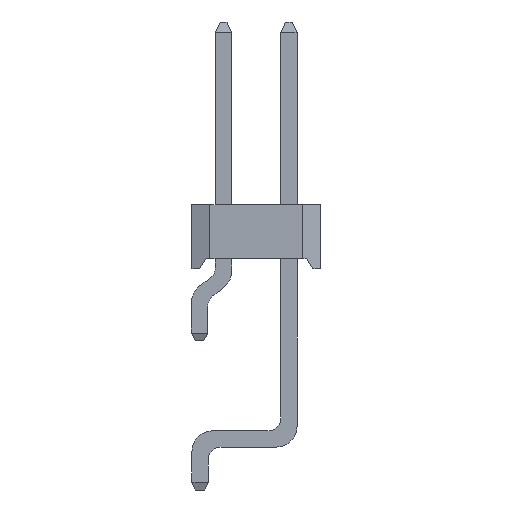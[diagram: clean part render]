
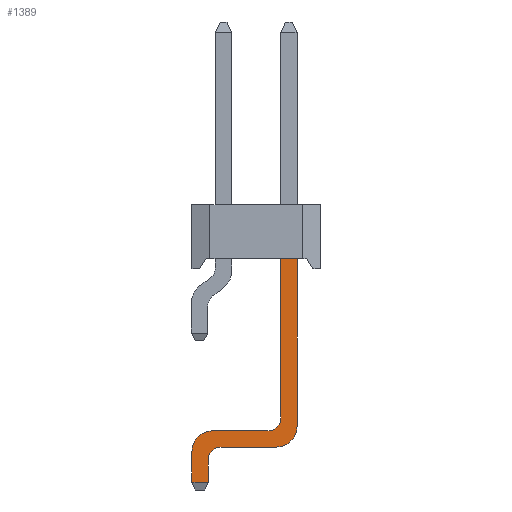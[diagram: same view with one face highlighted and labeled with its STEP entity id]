
A CAD part, left-side view. The second image highlights one B-rep face of the part: STEP entity #1389.
In plain terms, the highlighted planar face has unit normal (-1, 0, 0).
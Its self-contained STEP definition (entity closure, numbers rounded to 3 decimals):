
#370=CIRCLE('',#24748,0.8);
#371=CIRCLE('',#24749,0.5);
#372=CIRCLE('',#24750,0.8);
#373=CIRCLE('',#24751,0.5);
#1389=ADVANCED_FACE('',(#3831),#2611,.T.);
#2611=PLANE('',#24752);
#3831=FACE_OUTER_BOUND('',#5221,.T.);
#5221=EDGE_LOOP('',(#9910,#9911,#9912,#9913,#9914,#9915,#9916,#9917,#9918,
#9919,#9920,#9921));
#9910=ORIENTED_EDGE('',*,*,#16674,.T.);
#9911=ORIENTED_EDGE('',*,*,#16675,.T.);
#9912=ORIENTED_EDGE('',*,*,#16676,.F.);
#9913=ORIENTED_EDGE('',*,*,#14746,.F.);
#9914=ORIENTED_EDGE('',*,*,#16677,.T.);
#9915=ORIENTED_EDGE('',*,*,#16678,.T.);
#9916=ORIENTED_EDGE('',*,*,#16679,.F.);
#9917=ORIENTED_EDGE('',*,*,#16680,.T.);
#9918=ORIENTED_EDGE('',*,*,#16681,.T.);
#9919=ORIENTED_EDGE('',*,*,#16682,.T.);
#9920=ORIENTED_EDGE('',*,*,#16683,.F.);
#9921=ORIENTED_EDGE('',*,*,#16684,.T.);
#12642=VERTEX_POINT('',#32235);
#12643=VERTEX_POINT('',#32236);
#13850=VERTEX_POINT('',#36098);
#13851=VERTEX_POINT('',#36099);
#13852=VERTEX_POINT('',#36101);
#13853=VERTEX_POINT('',#36104);
#13854=VERTEX_POINT('',#36106);
#13855=VERTEX_POINT('',#36108);
#13856=VERTEX_POINT('',#36110);
#13857=VERTEX_POINT('',#36112);
#13858=VERTEX_POINT('',#36114);
#13859=VERTEX_POINT('',#36116);
#14746=EDGE_CURVE('',#12642,#12643,#18070,.T.);
#16674=EDGE_CURVE('',#13850,#13851,#19830,.T.);
#16675=EDGE_CURVE('',#13851,#13852,#370,.T.);
#16676=EDGE_CURVE('',#12643,#13852,#19831,.T.);
#16677=EDGE_CURVE('',#12642,#13853,#19832,.T.);
#16678=EDGE_CURVE('',#13853,#13854,#371,.T.);
#16679=EDGE_CURVE('',#13855,#13854,#19833,.T.);
#16680=EDGE_CURVE('',#13855,#13856,#372,.T.);
#16681=EDGE_CURVE('',#13856,#13857,#19834,.T.);
#16682=EDGE_CURVE('',#13857,#13858,#19835,.T.);
#16683=EDGE_CURVE('',#13859,#13858,#19836,.T.);
#16684=EDGE_CURVE('',#13859,#13850,#373,.T.);
#18070=LINE('',#32234,#21058);
#19830=LINE('',#36097,#22818);
#19831=LINE('',#36102,#22819);
#19832=LINE('',#36103,#22820);
#19833=LINE('',#36107,#22821);
#19834=LINE('',#36111,#22822);
#19835=LINE('',#36113,#22823);
#19836=LINE('',#36115,#22824);
#21058=VECTOR('',#25767,1.);
#22818=VECTOR('',#29317,1.);
#22819=VECTOR('',#29320,1.);
#22820=VECTOR('',#29321,1.);
#22821=VECTOR('',#29324,1.);
#22822=VECTOR('',#29327,1.);
#22823=VECTOR('',#29328,1.);
#22824=VECTOR('',#29329,1.);
#24748=AXIS2_PLACEMENT_3D('',#36100,#29318,#29319);
#24749=AXIS2_PLACEMENT_3D('',#36105,#29322,#29323);
#24750=AXIS2_PLACEMENT_3D('',#36109,#29325,#29326);
#24751=AXIS2_PLACEMENT_3D('',#36117,#29330,#29331);
#24752=AXIS2_PLACEMENT_3D('',#36118,#29332,#29333);
#25767=DIRECTION('',(0.,-1.,0.));
#29317=DIRECTION('',(0.,-1.,0.));
#29318=DIRECTION('',(-1.,0.,0.));
#29319=DIRECTION('',(0.,-1.,0.));
#29320=DIRECTION('',(0.,0.,-1.));
#29321=DIRECTION('',(0.,0.,-1.));
#29322=DIRECTION('',(1.,0.,0.));
#29323=DIRECTION('',(0.,-1.,0.));
#29324=DIRECTION('',(0.,-1.,0.));
#29325=DIRECTION('',(-1.,0.,0.));
#29326=DIRECTION('',(0.,-1.,0.));
#29327=DIRECTION('',(0.,0.,-1.));
#29328=DIRECTION('',(0.,-1.,0.));
#29329=DIRECTION('',(0.,0.,-1.));
#29330=DIRECTION('',(1.,0.,0.));
#29331=DIRECTION('',(0.,-1.,0.));
#29332=DIRECTION('',(-1.,0.,0.));
#29333=DIRECTION('',(0.,-1.,0.));
#32234=CARTESIAN_POINT('',(0.955,1.545,0.));
#32235=CARTESIAN_POINT('',(0.955,1.545,0.));
#32236=CARTESIAN_POINT('',(0.955,0.915,0.));
#36097=CARTESIAN_POINT('',(0.955,5.,-7.33));
#36098=CARTESIAN_POINT('',(0.955,3.87,-7.33));
#36099=CARTESIAN_POINT('',(0.955,1.715,-7.33));
#36100=CARTESIAN_POINT('',(0.955,1.715,-6.53));
#36101=CARTESIAN_POINT('',(0.955,0.915,-6.53));
#36102=CARTESIAN_POINT('',(0.955,0.915,-6.7));
#36103=CARTESIAN_POINT('',(0.955,1.545,-6.7));
#36104=CARTESIAN_POINT('',(0.955,1.545,-6.2));
#36105=CARTESIAN_POINT('',(0.955,2.045,-6.2));
#36106=CARTESIAN_POINT('',(0.955,2.045,-6.7));
#36107=CARTESIAN_POINT('',(0.955,5.,-6.7));
#36108=CARTESIAN_POINT('',(0.955,4.2,-6.7));
#36109=CARTESIAN_POINT('',(0.955,4.2,-7.5));
#36110=CARTESIAN_POINT('',(0.955,5.,-7.5));
#36111=CARTESIAN_POINT('',(0.955,5.,-7.33));
#36112=CARTESIAN_POINT('',(0.955,5.,-8.7));
#36113=CARTESIAN_POINT('',(0.955,1.545,-8.7));
#36114=CARTESIAN_POINT('',(0.955,4.37,-8.7));
#36115=CARTESIAN_POINT('',(0.955,4.37,-9.));
#36116=CARTESIAN_POINT('',(0.955,4.37,-7.83));
#36117=CARTESIAN_POINT('',(0.955,3.87,-7.83));
#36118=CARTESIAN_POINT('',(0.955,1.545,0.));
